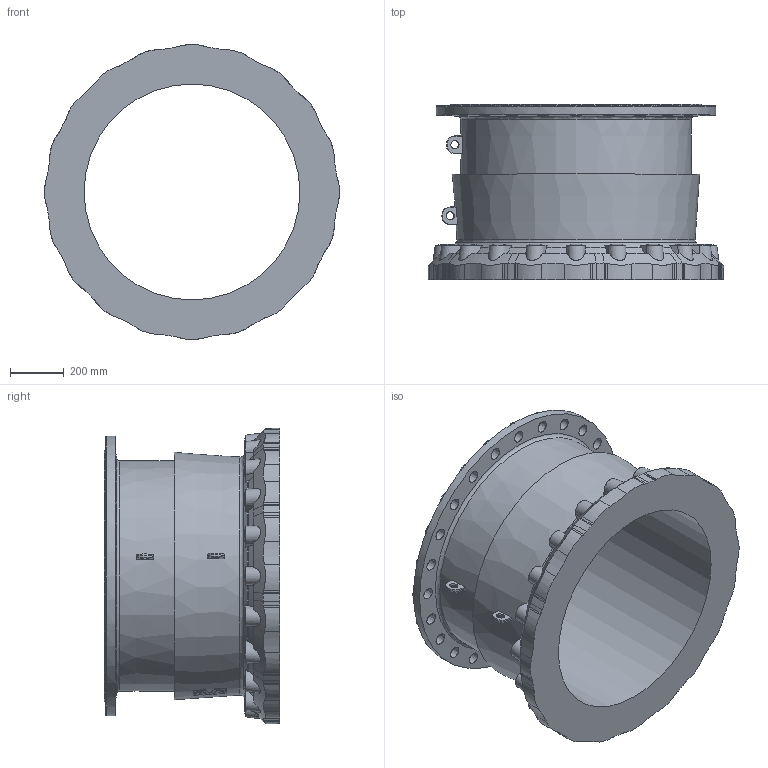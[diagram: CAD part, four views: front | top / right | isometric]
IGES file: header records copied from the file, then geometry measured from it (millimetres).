
Start section: SolidWorks IGES file using analytic representation for surfaces
Global section: file name: \\avksan2\techshare\PBM outline export from Enovia\O_633_00_DN800_XXXX_REV01.igs; native system: SolidWorks 2022; preprocessor: SolidWorks 2022; author: pbm; date: 231206.112640; units: millimetre
Bounding box: 1093.43 x 649.81 x 1093.43 mm (x, y, z)
Surface area: 4973395.1 mm2 (no closed solid volume)
Topology: 0 solids, 0 shells, 749 faces, 4103 edges, 4060 vertices
Faces by surface type: revolution 484, bspline 265
